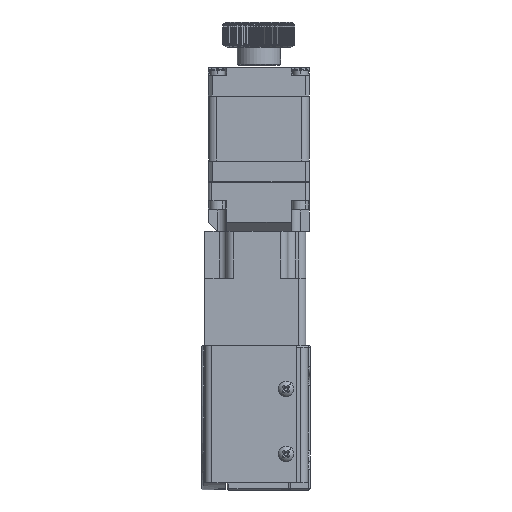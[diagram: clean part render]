
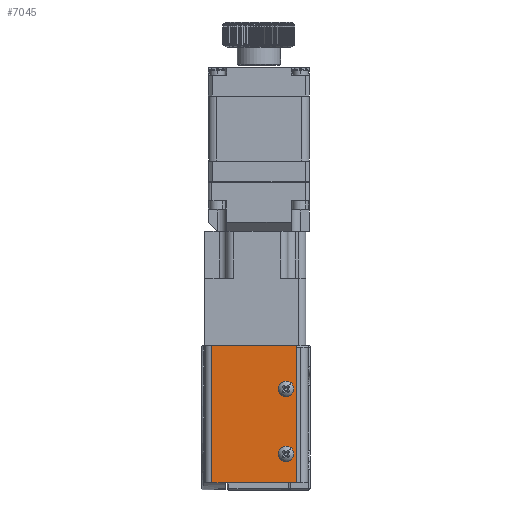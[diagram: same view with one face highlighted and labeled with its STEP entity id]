
A CAD part, left-side view. The second image highlights one B-rep face of the part: STEP entity #7045.
In plain terms, the highlighted planar face has unit normal (-1, 0, 0).
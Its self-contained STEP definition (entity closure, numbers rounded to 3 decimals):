
#2 = CARTESIAN_POINT ( 'NONE',  ( -69.5, -19.3, -38. ) ) ;
#273 = VERTEX_POINT ( 'NONE', #47184 ) ;
#420 = LINE ( 'NONE', #20698, #40824 ) ;
#602 = CIRCLE ( 'NONE', #37742, 1.45 ) ;
#945 = CARTESIAN_POINT ( 'NONE',  ( -69.5, -16.3, -12. ) ) ;
#3265 = DIRECTION ( 'NONE',  ( 0., 0., 1. ) ) ;
#3727 = ORIENTED_EDGE ( 'NONE', *, *, #36139, .F. ) ;
#4336 = LINE ( 'NONE', #24592, #50180 ) ;
#4752 = VECTOR ( 'NONE', #52054, 1000. ) ;
#5466 = LINE ( 'NONE', #25724, #47154 ) ;
#7045 = ADVANCED_FACE ( 'NONE', ( #25954, #41270, #61581 ), #15974, .F. ) ;
#8223 = ORIENTED_EDGE ( 'NONE', *, *, #64593, .F. ) ;
#9547 = ORIENTED_EDGE ( 'NONE', *, *, #16540, .F. ) ;
#10033 = VERTEX_POINT ( 'NONE', #37427 ) ;
#10294 = CARTESIAN_POINT ( 'NONE',  ( -69.5, -16.3, -31.45 ) ) ;
#10993 = DIRECTION ( 'NONE',  ( 0., 0., -1. ) ) ;
#11460 = LINE ( 'NONE', #31762, #4752 ) ;
#11561 = VERTEX_POINT ( 'NONE', #17424 ) ;
#12304 = CIRCLE ( 'NONE', #49535, 1.45 ) ;
#12444 = AXIS2_PLACEMENT_3D ( 'NONE', #36271, #56603, #10993 ) ;
#12712 = ORIENTED_EDGE ( 'NONE', *, *, #43827, .T. ) ;
#14476 = CARTESIAN_POINT ( 'NONE',  ( -69.5, -16.3, -30. ) ) ;
#15974 = PLANE ( 'NONE',  #12444 ) ;
#16540 = EDGE_CURVE ( 'NONE', #55230, #10033, #602, .T. ) ;
#17424 = CARTESIAN_POINT ( 'NONE',  ( -69.5, -16.3, -10.55 ) ) ;
#20285 = CARTESIAN_POINT ( 'NONE',  ( -69.5, -16.3, -12. ) ) ;
#20698 = CARTESIAN_POINT ( 'NONE',  ( -69.5, -19.3, 0. ) ) ;
#21218 = DIRECTION ( 'NONE',  ( -1., 0., 0. ) ) ;
#22564 = VERTEX_POINT ( 'NONE', #45480 ) ;
#22993 = CIRCLE ( 'NONE', #60223, 1.45 ) ;
#24592 = CARTESIAN_POINT ( 'NONE',  ( -69.5, 4.2, -38. ) ) ;
#25724 = CARTESIAN_POINT ( 'NONE',  ( -69.5, -19.3, -38. ) ) ;
#25954 = FACE_BOUND ( 'NONE', #35750, .T. ) ;
#27339 = VERTEX_POINT ( 'NONE', #2 ) ;
#27420 = ORIENTED_EDGE ( 'NONE', *, *, #56695, .F. ) ;
#28519 = CARTESIAN_POINT ( 'NONE',  ( -69.5, -16.3, -30. ) ) ;
#31155 = CARTESIAN_POINT ( 'NONE',  ( -69.5, 4.2, 0. ) ) ;
#31762 = CARTESIAN_POINT ( 'NONE',  ( -69.5, -19.3, -38. ) ) ;
#33282 = VERTEX_POINT ( 'NONE', #46636 ) ;
#34325 = EDGE_CURVE ( 'NONE', #22564, #60533, #420, .T. ) ;
#34792 = DIRECTION ( 'NONE',  ( -1., 0., 0. ) ) ;
#35130 = ORIENTED_EDGE ( 'NONE', *, *, #53034, .F. ) ;
#35750 = EDGE_LOOP ( 'NONE', ( #35130, #9547 ) ) ;
#36139 = EDGE_CURVE ( 'NONE', #11561, #33282, #12304, .T. ) ;
#36271 = CARTESIAN_POINT ( 'NONE',  ( -69.5, -19.3, -38. ) ) ;
#36601 = AXIS2_PLACEMENT_3D ( 'NONE', #28519, #48846, #3265 ) ;
#37427 = CARTESIAN_POINT ( 'NONE',  ( -69.5, -16.3, -28.55 ) ) ;
#37742 = AXIS2_PLACEMENT_3D ( 'NONE', #14476, #34792, #55094 ) ;
#40572 = DIRECTION ( 'NONE',  ( -1., 0., 0. ) ) ;
#40824 = VECTOR ( 'NONE', #41004, 1000. ) ;
#41004 = DIRECTION ( 'NONE',  ( 0., 1., 0. ) ) ;
#41270 = FACE_BOUND ( 'NONE', #61672, .T. ) ;
#41513 = DIRECTION ( 'NONE',  ( 0., 0., 1. ) ) ;
#43827 = EDGE_CURVE ( 'NONE', #27339, #22564, #11460, .T. ) ;
#44907 = DIRECTION ( 'NONE',  ( 0., 0., 1. ) ) ;
#45480 = CARTESIAN_POINT ( 'NONE',  ( -69.5, -19.3, 0. ) ) ;
#46039 = DIRECTION ( 'NONE',  ( 0., 1., 0. ) ) ;
#46636 = CARTESIAN_POINT ( 'NONE',  ( -69.5, -16.3, -13.45 ) ) ;
#47154 = VECTOR ( 'NONE', #46039, 1000. ) ;
#47184 = CARTESIAN_POINT ( 'NONE',  ( -69.5, 4.2, -38. ) ) ;
#48816 = EDGE_LOOP ( 'NONE', ( #54637, #64514, #8223, #12712 ) ) ;
#48846 = DIRECTION ( 'NONE',  ( -1., 0., 0. ) ) ;
#49535 = AXIS2_PLACEMENT_3D ( 'NONE', #945, #21218, #41513 ) ;
#50180 = VECTOR ( 'NONE', #44907, 1000. ) ;
#52054 = DIRECTION ( 'NONE',  ( 0., 0., 1. ) ) ;
#53034 = EDGE_CURVE ( 'NONE', #10033, #55230, #65344, .T. ) ;
#54637 = ORIENTED_EDGE ( 'NONE', *, *, #34325, .T. ) ;
#55094 = DIRECTION ( 'NONE',  ( 0., 0., 1. ) ) ;
#55230 = VERTEX_POINT ( 'NONE', #10294 ) ;
#56603 = DIRECTION ( 'NONE',  ( 1., 0., 0. ) ) ;
#56695 = EDGE_CURVE ( 'NONE', #33282, #11561, #22993, .T. ) ;
#60004 = EDGE_CURVE ( 'NONE', #273, #60533, #4336, .T. ) ;
#60223 = AXIS2_PLACEMENT_3D ( 'NONE', #20285, #40572, #60892 ) ;
#60533 = VERTEX_POINT ( 'NONE', #31155 ) ;
#60892 = DIRECTION ( 'NONE',  ( 0., 0., 1. ) ) ;
#61581 = FACE_OUTER_BOUND ( 'NONE', #48816, .T. ) ;
#61672 = EDGE_LOOP ( 'NONE', ( #3727, #27420 ) ) ;
#64514 = ORIENTED_EDGE ( 'NONE', *, *, #60004, .F. ) ;
#64593 = EDGE_CURVE ( 'NONE', #27339, #273, #5466, .T. ) ;
#65344 = CIRCLE ( 'NONE', #36601, 1.45 ) ;
